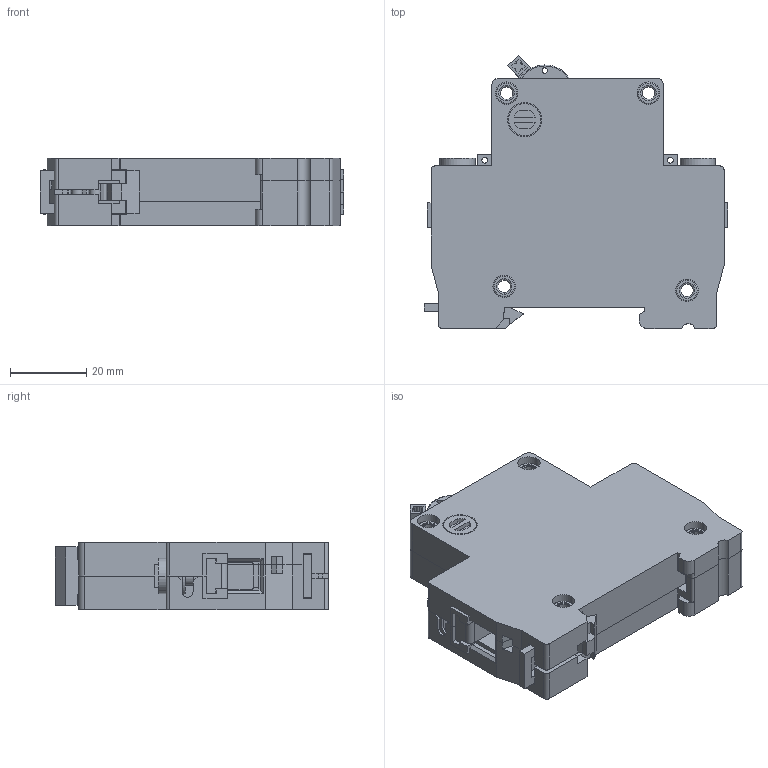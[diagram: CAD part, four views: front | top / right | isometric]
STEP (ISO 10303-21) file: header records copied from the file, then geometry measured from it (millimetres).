
FILE_DESCRIPTION (( 'STEP AP214' ), '1' );
FILE_NAME ('ÂÀ47-29 1 ïîëþñ.STEP', '2022-11-18T09:53:57', ( '' ), ( '' ), 'SwSTEP 2.0', 'SolidWorks 2018', '' );
FILE_SCHEMA (( 'AUTOMOTIVE_DESIGN' ));
Length unit declared in the file: millimetre
Products named in the file (10): Áîêîâèíà ëåâàÿ (ÂÀ47-29 Changan) 04.2022; Ðó÷êà (ÂÀ47-29 Changan) 04.2022; ﾂ鏆鮏 (ﾂﾀ47-29 OFA) 14.02.2022; ÂÀ47-29 1 ïîëþñ; 鎔艜 (臍47-29) 14.02.2022; Êîëîäêà (ÂÀ47-29) 14.02.2022; Çàùåëêà (ÂÀ47-29 Changan) 04.2022; 青汶篪赅 (吕47-29) 14.02.2022; Çàêëåïêà (ÂÀ47-29 OFA) 04.2022_1 ¯®«îá; Áîêîâèíà ïðàâàÿ (ÂÀ47-29 Changan) 04.2022
Assembly tree (16 placements, depth 2):
  ÂÀ47-29 1 ïîëþñ
    Áîêîâèíà ïðàâàÿ (ÂÀ47-29 Changan) 04.2022
    Áîêîâèíà ëåâàÿ (ÂÀ47-29 Changan) 04.2022
    Çàùåëêà (ÂÀ47-29 Changan) 04.2022
    Ðó÷êà (ÂÀ47-29 Changan) 04.2022
    Çàêëåïêà (ÂÀ47-29 OFA) 04.2022_1 ¯®«îá  x4
    青汶篪赅 (吕47-29) 14.02.2022  x2
    鎔艜 (臍47-29) 14.02.2022  x2
    ﾂ鏆鮏 (ﾂﾀ47-29 OFA) 14.02.2022  x2
    Êîëîäêà (ÂÀ47-29) 14.02.2022  x2
Bounding box: 79.83 x 71.76 x 17.7 mm (x, y, z)
Volume: 61910.3 mm3; surface area: 33777.7 mm2
Topology: 16 solids, 16 shells, 936 faces, 2494 edges, 1607 vertices
Faces by surface type: plane 653, cylinder 225, torus 58
Entity records: 21919 total; most frequent: CARTESIAN_POINT 3858, ORIENTED_EDGE 3718, DIRECTION 3625, EDGE_CURVE 1859, VECTOR 1429, LINE 1429, VERTEX_POINT 1211, AXIS2_PLACEMENT_3D 1098
